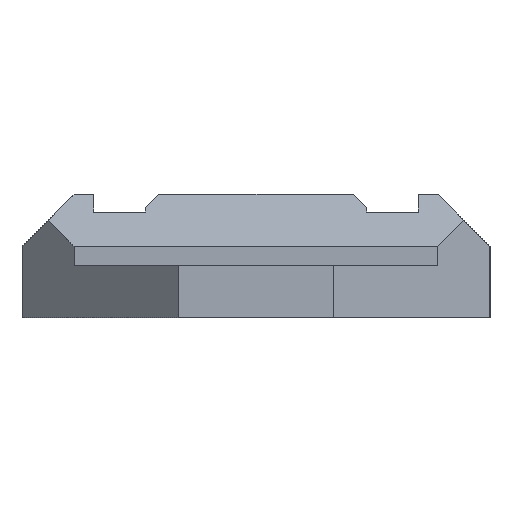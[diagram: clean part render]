
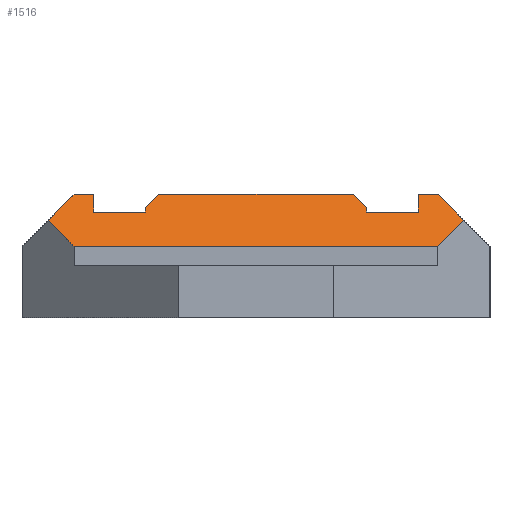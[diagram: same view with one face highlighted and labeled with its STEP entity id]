
A CAD part, left-side view. The second image highlights one B-rep face of the part: STEP entity #1516.
In plain terms, the highlighted planar face has unit normal (-0.707, 0, 0.707).
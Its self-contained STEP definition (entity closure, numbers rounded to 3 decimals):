
#793=CARTESIAN_POINT('Vertex',(-13.5,-7.,4.75)) ;
#797=CARTESIAN_POINT('Control Point',(-13.5,-7.,4.75)) ;
#798=CARTESIAN_POINT('Control Point',(-14.5,-8.,3.75)) ;
#799=CARTESIAN_POINT('Vertex',(-14.5,-8.,3.75)) ;
#821=CARTESIAN_POINT('Control Point',(-15.5,-7.,2.75)) ;
#822=CARTESIAN_POINT('Control Point',(-14.5,-8.,3.75)) ;
#823=CARTESIAN_POINT('Vertex',(-15.5,-7.,2.75)) ;
#910=CARTESIAN_POINT('Vertex',(-14.5,8.,3.75)) ;
#914=CARTESIAN_POINT('Control Point',(-13.5,7.,4.75)) ;
#915=CARTESIAN_POINT('Control Point',(-14.5,8.,3.75)) ;
#916=CARTESIAN_POINT('Vertex',(-13.5,7.,4.75)) ;
#1113=CARTESIAN_POINT('Vertex',(-15.5,7.,2.75)) ;
#1116=CARTESIAN_POINT('Line Origine',(-15.5,0.,2.75)) ;
#1134=CARTESIAN_POINT('Control Point',(-15.5,7.,2.75)) ;
#1135=CARTESIAN_POINT('Control Point',(-14.5,8.,3.75)) ;
#1152=CARTESIAN_POINT('Line Origine',(-13.5,-6.625,4.75)) ;
#1156=CARTESIAN_POINT('Vertex',(-13.5,-6.25,4.75)) ;
#1184=CARTESIAN_POINT('Vertex',(-13.5,6.25,4.75)) ;
#1192=CARTESIAN_POINT('Line Origine',(-13.5,6.625,4.75)) ;
#1220=CARTESIAN_POINT('Vertex',(-14.19,-6.25,4.06)) ;
#1223=CARTESIAN_POINT('Line Origine',(-13.845,-6.25,4.405)) ;
#1240=CARTESIAN_POINT('Line Origine',(-14.19,5.25,4.06)) ;
#1244=CARTESIAN_POINT('Vertex',(-14.19,6.25,4.06)) ;
#1246=CARTESIAN_POINT('Vertex',(-14.19,4.25,4.06)) ;
#1267=CARTESIAN_POINT('Vertex',(-14.19,-4.25,4.06)) ;
#1270=CARTESIAN_POINT('Line Origine',(-14.19,-5.25,4.06)) ;
#1378=CARTESIAN_POINT('Line Origine',(-13.845,6.25,4.405)) ;
#1402=CARTESIAN_POINT('Line Origine',(-14.095,4.25,4.155)) ;
#1406=CARTESIAN_POINT('Vertex',(-14.,4.25,4.25)) ;
#1434=CARTESIAN_POINT('Control Point',(-13.5,3.75,4.75)) ;
#1435=CARTESIAN_POINT('Control Point',(-14.,4.25,4.25)) ;
#1436=CARTESIAN_POINT('Vertex',(-13.5,3.75,4.75)) ;
#1456=CARTESIAN_POINT('Line Origine',(-14.095,-4.25,4.155)) ;
#1460=CARTESIAN_POINT('Vertex',(-14.,-4.25,4.25)) ;
#1482=CARTESIAN_POINT('Axis2P3D Location',(-13.5,0.,4.75)) ;
#1488=CARTESIAN_POINT('Control Point',(-13.5,-3.75,4.75)) ;
#1489=CARTESIAN_POINT('Control Point',(-14.,-4.25,4.25)) ;
#1490=CARTESIAN_POINT('Vertex',(-13.5,-3.75,4.75)) ;
#1493=CARTESIAN_POINT('Line Origine',(-13.5,0.,4.75)) ;
#1118=VECTOR('Line Direction',#1117,1.) ;
#1154=VECTOR('Line Direction',#1153,1.) ;
#1194=VECTOR('Line Direction',#1193,1.) ;
#1225=VECTOR('Line Direction',#1224,1.) ;
#1242=VECTOR('Line Direction',#1241,1.) ;
#1272=VECTOR('Line Direction',#1271,1.) ;
#1380=VECTOR('Line Direction',#1379,1.) ;
#1404=VECTOR('Line Direction',#1403,1.) ;
#1458=VECTOR('Line Direction',#1457,1.) ;
#1495=VECTOR('Line Direction',#1494,1.) ;
#1117=DIRECTION('Vector Direction',(0.,-1.,0.)) ;
#1153=DIRECTION('Vector Direction',(0.,-1.,0.)) ;
#1193=DIRECTION('Vector Direction',(0.,-1.,0.)) ;
#1224=DIRECTION('Vector Direction',(-0.707,0.,-0.707)) ;
#1241=DIRECTION('Vector Direction',(0.,-1.,0.)) ;
#1271=DIRECTION('Vector Direction',(0.,-1.,0.)) ;
#1379=DIRECTION('Vector Direction',(-0.707,0.,-0.707)) ;
#1403=DIRECTION('Vector Direction',(-0.707,0.,-0.707)) ;
#1457=DIRECTION('Vector Direction',(-0.707,0.,-0.707)) ;
#1483=DIRECTION('Axis2P3D Direction',(0.707,0.,-0.707)) ;
#1484=DIRECTION('Axis2P3D XDirection',(0.,-1.,0.)) ;
#1494=DIRECTION('Vector Direction',(0.,-1.,0.)) ;
#1485=AXIS2_PLACEMENT_3D('Plane Axis2P3D',#1482,#1483,#1484) ;
#1119=LINE('Line',#1116,#1118) ;
#1155=LINE('Line',#1152,#1154) ;
#1195=LINE('Line',#1192,#1194) ;
#1226=LINE('Line',#1223,#1225) ;
#1243=LINE('Line',#1240,#1242) ;
#1273=LINE('Line',#1270,#1272) ;
#1381=LINE('Line',#1378,#1380) ;
#1405=LINE('Line',#1402,#1404) ;
#1459=LINE('Line',#1456,#1458) ;
#1496=LINE('Line',#1493,#1495) ;
#1486=PLANE('',#1485) ;
#801=EDGE_CURVE('',#794,#800,#796,.T.) ;
#825=EDGE_CURVE('',#800,#824,#820,.F.) ;
#918=EDGE_CURVE('',#917,#911,#913,.T.) ;
#1120=EDGE_CURVE('',#824,#1114,#1119,.F.) ;
#1136=EDGE_CURVE('',#1114,#911,#1133,.T.) ;
#1158=EDGE_CURVE('',#794,#1157,#1155,.F.) ;
#1196=EDGE_CURVE('',#1185,#917,#1195,.F.) ;
#1227=EDGE_CURVE('',#1157,#1221,#1226,.T.) ;
#1248=EDGE_CURVE('',#1245,#1247,#1243,.T.) ;
#1274=EDGE_CURVE('',#1268,#1221,#1273,.T.) ;
#1382=EDGE_CURVE('',#1185,#1245,#1381,.T.) ;
#1408=EDGE_CURVE('',#1407,#1247,#1405,.T.) ;
#1438=EDGE_CURVE('',#1407,#1437,#1433,.F.) ;
#1462=EDGE_CURVE('',#1461,#1268,#1459,.T.) ;
#1492=EDGE_CURVE('',#1491,#1461,#1487,.T.) ;
#1497=EDGE_CURVE('',#1491,#1437,#1496,.F.) ;
#1499=ORIENTED_EDGE('',*,*,#1492,.F.) ;
#1500=ORIENTED_EDGE('',*,*,#1497,.T.) ;
#1501=ORIENTED_EDGE('',*,*,#1438,.F.) ;
#1502=ORIENTED_EDGE('',*,*,#1408,.T.) ;
#1503=ORIENTED_EDGE('',*,*,#1248,.F.) ;
#1504=ORIENTED_EDGE('',*,*,#1382,.F.) ;
#1505=ORIENTED_EDGE('',*,*,#1196,.T.) ;
#1506=ORIENTED_EDGE('',*,*,#918,.T.) ;
#1507=ORIENTED_EDGE('',*,*,#1136,.F.) ;
#1508=ORIENTED_EDGE('',*,*,#1120,.F.) ;
#1509=ORIENTED_EDGE('',*,*,#825,.F.) ;
#1510=ORIENTED_EDGE('',*,*,#801,.F.) ;
#1511=ORIENTED_EDGE('',*,*,#1158,.T.) ;
#1512=ORIENTED_EDGE('',*,*,#1227,.T.) ;
#1513=ORIENTED_EDGE('',*,*,#1274,.F.) ;
#1514=ORIENTED_EDGE('',*,*,#1462,.F.) ;
#1498=EDGE_LOOP('',(#1499,#1500,#1501,#1502,#1503,#1504,#1505,#1506,#1507,#1508,#1509,#1510,#1511,#1512,#1513,#1514)) ;
#794=VERTEX_POINT('',#793) ;
#800=VERTEX_POINT('',#799) ;
#824=VERTEX_POINT('',#823) ;
#911=VERTEX_POINT('',#910) ;
#917=VERTEX_POINT('',#916) ;
#1114=VERTEX_POINT('',#1113) ;
#1157=VERTEX_POINT('',#1156) ;
#1185=VERTEX_POINT('',#1184) ;
#1221=VERTEX_POINT('',#1220) ;
#1245=VERTEX_POINT('',#1244) ;
#1247=VERTEX_POINT('',#1246) ;
#1268=VERTEX_POINT('',#1267) ;
#1407=VERTEX_POINT('',#1406) ;
#1437=VERTEX_POINT('',#1436) ;
#1461=VERTEX_POINT('',#1460) ;
#1491=VERTEX_POINT('',#1490) ;
#1516=ADVANCED_FACE('\X2\FF8AFF9FFF70FF82\X0\ \X2\FF8EFF9EFF83FF9EFF68FF70\X0\',(#1515),#1486,.F.) ;
#796=B_SPLINE_CURVE_WITH_KNOTS('',1,(#797,#798),.UNSPECIFIED.,.F.,.U.,(2,2),(-1.732,0.),.UNSPECIFIED.) ;
#820=B_SPLINE_CURVE_WITH_KNOTS('',1,(#821,#822),.UNSPECIFIED.,.F.,.U.,(2,2),(-1.342,0.39),.UNSPECIFIED.) ;
#913=B_SPLINE_CURVE_WITH_KNOTS('',1,(#914,#915),.UNSPECIFIED.,.F.,.U.,(2,2),(-1.732,0.),.UNSPECIFIED.) ;
#1133=B_SPLINE_CURVE_WITH_KNOTS('',1,(#1134,#1135),.UNSPECIFIED.,.F.,.U.,(2,2),(-1.524,0.208),.UNSPECIFIED.) ;
#1433=B_SPLINE_CURVE_WITH_KNOTS('',1,(#1434,#1435),.UNSPECIFIED.,.F.,.U.,(2,2),(-0.433,0.433),.UNSPECIFIED.) ;
#1487=B_SPLINE_CURVE_WITH_KNOTS('',1,(#1488,#1489),.UNSPECIFIED.,.F.,.U.,(2,2),(-0.433,0.433),.UNSPECIFIED.) ;
#1515=FACE_OUTER_BOUND('',#1498,.T.) ;
